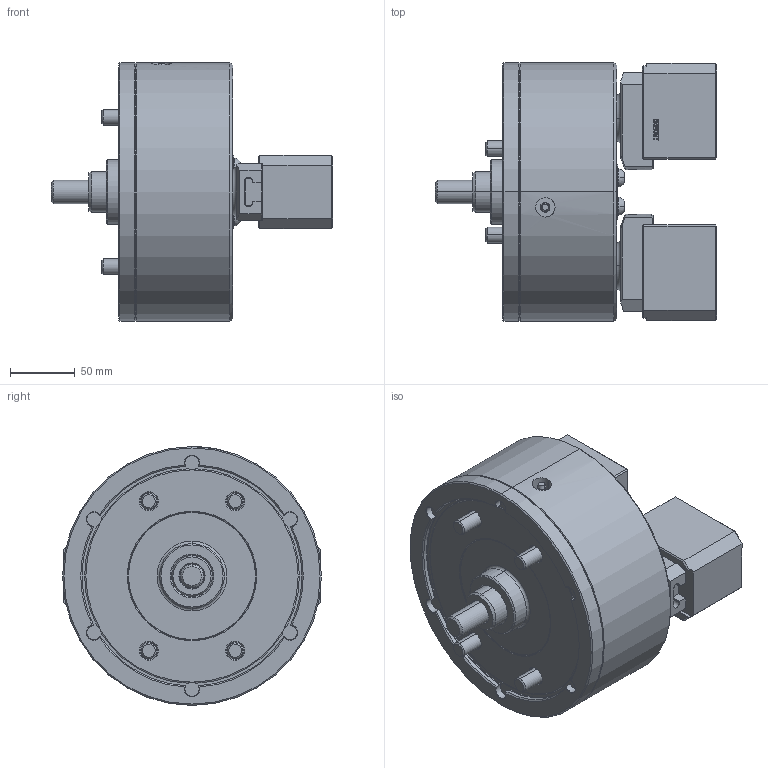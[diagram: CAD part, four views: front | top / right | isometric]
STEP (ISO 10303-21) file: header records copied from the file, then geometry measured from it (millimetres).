
FILE_DESCRIPTION (( 'STEP AP214' ), '1' );
FILE_NAME ('PWT08_CL_ID.STEP', '2019-10-21T05:04:36', ( '' ), ( '' ), 'SwSTEP 2.0', 'SolidWorks 2017', '' );
FILE_SCHEMA (( 'AUTOMOTIVE_DESIGN' ));
Length unit declared in the file: millimetre
Products named in the file (5): 61P332344; PWT08_CL_ID; 61P420336; 0030112020; 結合_ID
Assembly tree (9 placements, depth 2):
  PWT08_CL_ID
    61P420336  x2
    61P332344  x2
    0030112020  x4
    結合_ID
Bounding box: 217.66 x 200 x 200 mm (x, y, z)
Volume: 3194124.6 mm3; surface area: 274847.3 mm2
Topology: 9 solids, 10 shells, 1713 faces, 4301 edges, 2726 vertices
Faces by surface type: plane 819, bspline 356, cone 268, cylinder 218, torus 52
Entity records: 52937 total; most frequent: CARTESIAN_POINT 20950, ORIENTED_EDGE 7070, DIRECTION 5666, EDGE_CURVE 3535, VERTEX_POINT 2251, LINE 1938, VECTOR 1938, AXIS2_PLACEMENT_3D 1864
